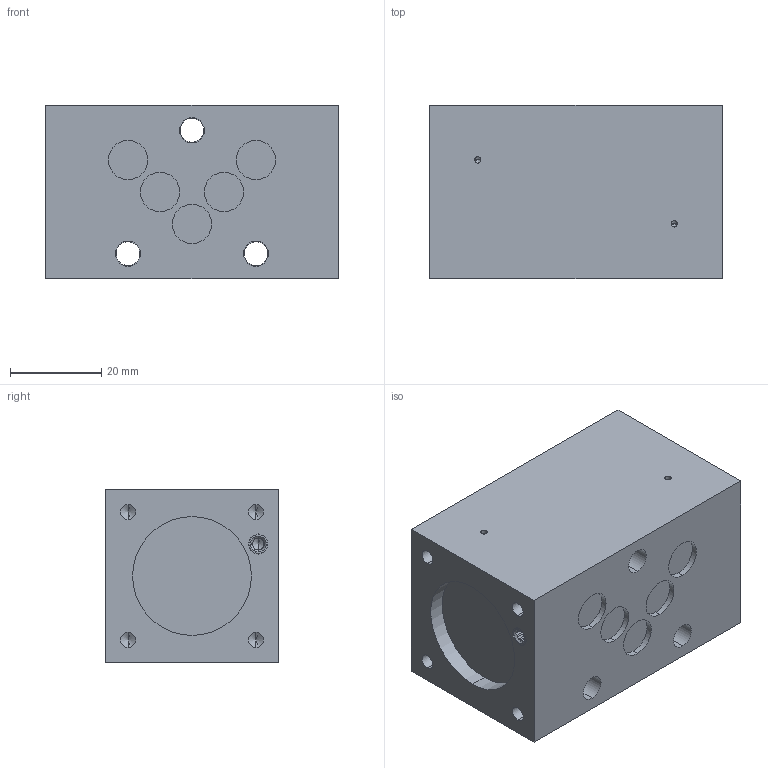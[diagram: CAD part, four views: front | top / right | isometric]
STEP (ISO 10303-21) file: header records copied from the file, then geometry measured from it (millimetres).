
FILE_DESCRIPTION (( 'STEP AP203' ), '1' );
FILE_NAME ('BPW.step', '2013-07-29T06:21:03', ( 'Wandfluh AG' ), ( 'Wandfluh AG' ), 'SwSTEP 2.0', 'SolidWorks 2012', '' );
FILE_SCHEMA (( 'CONFIG_CONTROL_DESIGN' ));
Length unit declared in the file: millimetre
Products named in the file (1): BPW
Bounding box: 64 x 38 x 38 mm (x, y, z)
Volume: 83879.8 mm3; surface area: 19750.5 mm2
Topology: 5 solids, 5 shells, 801 faces, 2265 edges, 1486 vertices
Faces by surface type: plane 532, cylinder 214, cone 30, bspline 25
Entity records: 27326 total; most frequent: CARTESIAN_POINT 6070, ORIENTED_EDGE 4482, DIRECTION 4461, EDGE_CURVE 2241, AXIS2_PLACEMENT_3D 1505, VERTEX_POINT 1486, VECTOR 1451, LINE 1451
